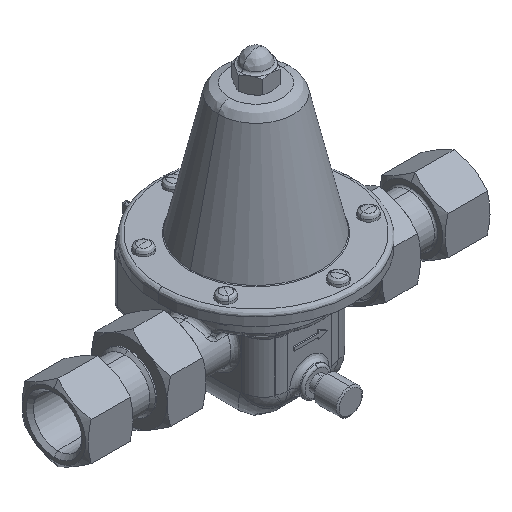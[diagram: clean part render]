
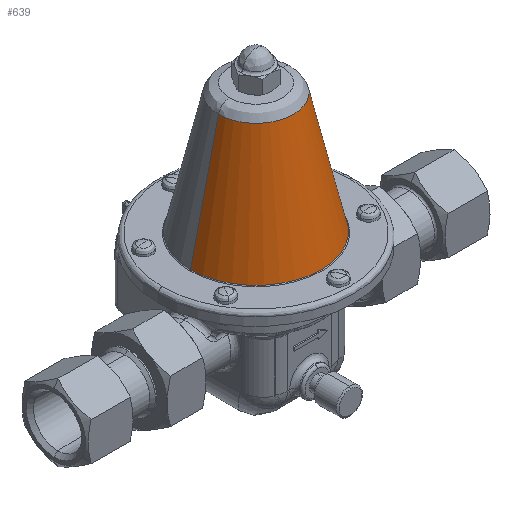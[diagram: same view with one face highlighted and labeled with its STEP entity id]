
A CAD part, isometric view. The second image highlights one B-rep face of the part: STEP entity #639.
In plain terms, the highlighted free-form (B-spline) face has degree [2, 1] with [5, 2] control points.
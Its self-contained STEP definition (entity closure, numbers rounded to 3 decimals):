
#639=ADVANCED_FACE('',(#3845),#3844,.T.);
#3844=( BOUNDED_SURFACE() B_SPLINE_SURFACE( 2,1,((#9507,#9508),(#9509,#9510),(#9511,#9512),(#9513,#9514),(#9515,#9516)), .UNSPECIFIED.,.F.,.F.,.F.) B_SPLINE_SURFACE_WITH_KNOTS((3,2,3),(2,2),(0.,0.5,1.),(0.,1.), .UNSPECIFIED. ) GEOMETRIC_REPRESENTATION_ITEM() RATIONAL_B_SPLINE_SURFACE(((1.,1.),(0.707,0.707),(1.,1.),(0.707,0.707),(1.,1.))) REPRESENTATION_ITEM('') SURFACE() );
#3845=FACE_OUTER_BOUND('',#9517,.T.);
#9507=CARTESIAN_POINT('',(23.259,0.,78.575));
#9508=CARTESIAN_POINT('',(40.501,0.,3.888));
#9509=CARTESIAN_POINT('',(23.259,-23.259,78.575));
#9510=CARTESIAN_POINT('',(40.501,-40.501,3.888));
#9511=CARTESIAN_POINT('',(0.,-23.259,78.575));
#9512=CARTESIAN_POINT('',(0.,-40.501,3.888));
#9513=CARTESIAN_POINT('',(-23.259,-23.259,78.575));
#9514=CARTESIAN_POINT('',(-40.501,-40.501,3.888));
#9515=CARTESIAN_POINT('',(-23.259,0.,78.575));
#9516=CARTESIAN_POINT('',(-40.501,0.,3.888));
#9517=EDGE_LOOP('',(#11758,#11759,#11760,#11761));
#11758=ORIENTED_EDGE('',*,*,#12921,.T.);
#11759=ORIENTED_EDGE('',*,*,#12937,.T.);
#11760=ORIENTED_EDGE('',*,*,#12934,.F.);
#11761=ORIENTED_EDGE('',*,*,#12938,.F.);
#12921=EDGE_CURVE('',#17964,#17965,#17966,.T.);
#12934=EDGE_CURVE('',#18040,#18047,#18048,.T.);
#12937=EDGE_CURVE('',#17965,#18047,#18066,.T.);
#12938=EDGE_CURVE('',#17964,#18040,#18072,.T.);
#17964=VERTEX_POINT('',#23560);
#17965=VERTEX_POINT('',#23561);
#17966=CIRCLE('',#23565,23.259);
#18040=VERTEX_POINT('',#23604);
#18047=VERTEX_POINT('',#23608);
#18048=CIRCLE('',#23612,40.501);
#18066=(BOUNDED_CURVE() B_SPLINE_CURVE(1,(#23620,#23621),.UNSPECIFIED.,.F.,.F.) B_SPLINE_CURVE_WITH_KNOTS((2,2),(0.,1.),.UNSPECIFIED.) CURVE() GEOMETRIC_REPRESENTATION_ITEM() RATIONAL_B_SPLINE_CURVE((1.,1.)) REPRESENTATION_ITEM('') );
#18072=(BOUNDED_CURVE() B_SPLINE_CURVE(1,(#23622,#23623),.UNSPECIFIED.,.F.,.F.) B_SPLINE_CURVE_WITH_KNOTS((2,2),(0.,1.),.UNSPECIFIED.) CURVE() GEOMETRIC_REPRESENTATION_ITEM() RATIONAL_B_SPLINE_CURVE((0.75,0.75)) REPRESENTATION_ITEM('') );
#23560=CARTESIAN_POINT('',(23.259,0.,78.575));
#23561=CARTESIAN_POINT('',(-23.259,0.,78.575));
#23562=CARTESIAN_POINT('',(0.,0.,78.575));
#23563=DIRECTION('',(0.,0.,-1.));
#23564=DIRECTION('',(-1.,0.,0.));
#23565=AXIS2_PLACEMENT_3D('',#23562,#23563,#23564);
#23604=CARTESIAN_POINT('',(40.501,0.,3.888));
#23608=CARTESIAN_POINT('',(-40.501,0.,3.888));
#23609=CARTESIAN_POINT('',(0.,0.,3.888));
#23610=DIRECTION('',(0.,0.,-1.));
#23611=DIRECTION('',(-1.,0.,0.));
#23612=AXIS2_PLACEMENT_3D('',#23609,#23610,#23611);
#23620=CARTESIAN_POINT('',(-23.259,0.,78.575));
#23621=CARTESIAN_POINT('',(-40.501,0.,3.888));
#23622=CARTESIAN_POINT('',(23.259,0.,78.575));
#23623=CARTESIAN_POINT('',(40.501,0.,3.888));
